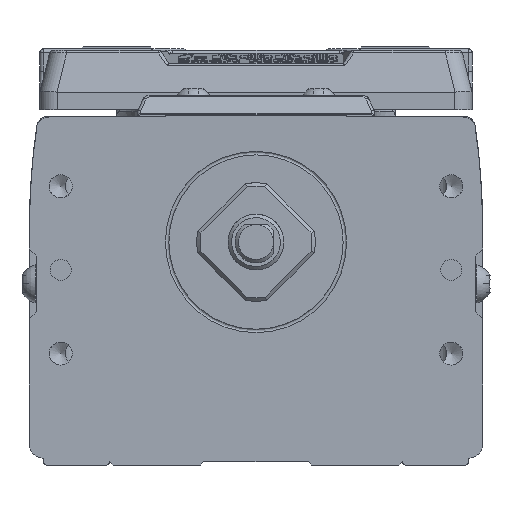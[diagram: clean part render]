
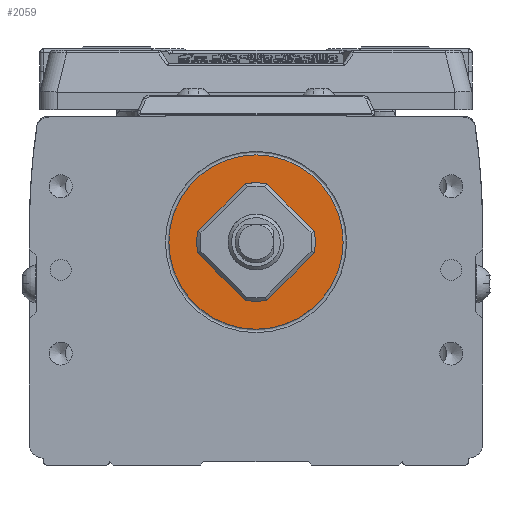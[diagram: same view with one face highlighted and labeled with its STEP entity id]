
A CAD part, left-side view. The second image highlights one B-rep face of the part: STEP entity #2059.
In plain terms, the highlighted planar face has unit normal (-1, 0, 0) as drawn and (0, 0, 1) by its records, which use the part's own axes.
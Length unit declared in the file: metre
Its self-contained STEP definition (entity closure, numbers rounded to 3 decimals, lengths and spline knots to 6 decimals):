
#2059=ADVANCED_FACE('',(#5033,#5034),#5035,.T.);
#5033=FACE_OUTER_BOUND('',#9578,.T.);
#5034=FACE_BOUND('',#9579,.T.);
#5035=PLANE('',#9580);
#9578=EDGE_LOOP('',(#17803));
#9579=EDGE_LOOP('',(#17804));
#9580=AXIS2_PLACEMENT_3D('',#17805,#17806,#17807);
#17803=ORIENTED_EDGE('',*,*,#29650,.T.);
#17804=ORIENTED_EDGE('',*,*,#29651,.F.);
#17805=CARTESIAN_POINT('',(0.000036,-0.0065,0.02));
#17806=DIRECTION('',(0.0,0.0,1.0));
#17807=DIRECTION('',(1.0,0.0,0.0));
#29650=EDGE_CURVE('',#34486,#34486,#34487,.T.);
#29651=EDGE_CURVE('',#34488,#34488,#34489,.T.);
#34486=VERTEX_POINT('',#41563);
#34487=CIRCLE('',#41564,0.0125);
#34488=VERTEX_POINT('',#41565);
#34489=CIRCLE('',#41566,0.004);
#41563=CARTESIAN_POINT('',(-0.0125,0.,0.02));
#41564=AXIS2_PLACEMENT_3D('',#51604,#51605,#51606);
#41565=CARTESIAN_POINT('',(0.004,0.0,0.02));
#41566=AXIS2_PLACEMENT_3D('',#51607,#51608,#51609);
#51604=CARTESIAN_POINT('',(0.0,0.,0.02));
#51605=DIRECTION('',(0.0,0.0,1.0));
#51606=DIRECTION('',(1.0,0.0,0.0));
#51607=CARTESIAN_POINT('',(0.0,0.0,0.02));
#51608=DIRECTION('',(0.0,0.0,1.0));
#51609=DIRECTION('',(-1.0,0.0,0.0));
